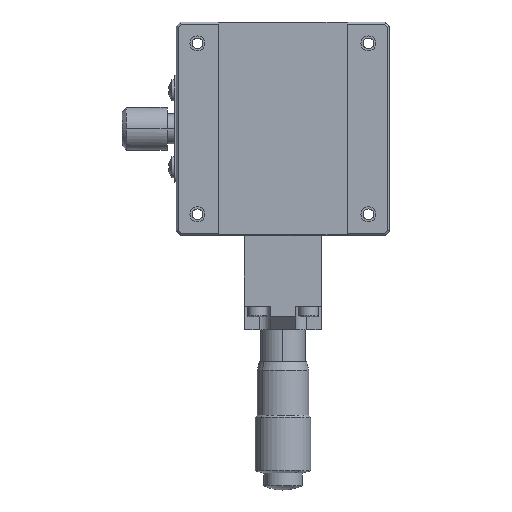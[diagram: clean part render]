
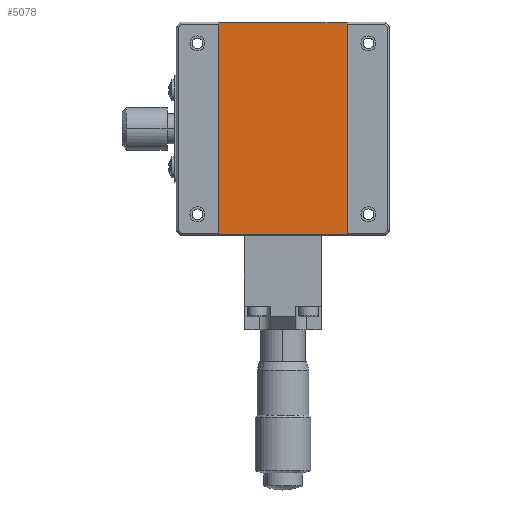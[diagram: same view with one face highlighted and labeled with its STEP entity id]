
A CAD part, front view. The second image highlights one B-rep face of the part: STEP entity #5078.
In plain terms, the highlighted planar face has unit normal (0, -1, 0).
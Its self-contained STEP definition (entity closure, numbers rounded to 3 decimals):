
#499 = LINE ( 'NONE', #507, #6881 ) ;
#500 = LINE ( 'NONE', #510, #6855 ) ;
#505 = LINE ( 'NONE', #513, #6861 ) ;
#507 = CARTESIAN_POINT ( 'NONE',  ( -60.296, -23.128, 31. ) ) ;
#508 = LINE ( 'NONE', #516, #6815 ) ;
#509 = DIRECTION ( 'NONE',  ( 0., 0., 1. ) ) ;
#510 = CARTESIAN_POINT ( 'NONE',  ( -30.296, -23.128, -24.8 ) ) ;
#512 = DIRECTION ( 'NONE',  ( -1., 0., 0. ) ) ;
#513 = CARTESIAN_POINT ( 'NONE',  ( -30.296, -23.128, 31. ) ) ;
#515 = DIRECTION ( 'NONE',  ( 0., 0., -1. ) ) ;
#516 = CARTESIAN_POINT ( 'NONE',  ( -30.296, -23.128, 24.8 ) ) ;
#518 = DIRECTION ( 'NONE',  ( 1., 0., 0. ) ) ;
#2508 = CARTESIAN_POINT ( 'NONE',  ( -30.296, -23.128, 31. ) ) ;
#2511 = FACE_OUTER_BOUND ( 'NONE', #6497, .T. ) ;
#2512 = PLANE ( 'NONE',  #14005 ) ;
#2515 = DIRECTION ( 'NONE',  ( 0., 1., 0. ) ) ;
#2516 = DIRECTION ( 'NONE',  ( 0., 0., 1. ) ) ;
#5078 = ADVANCED_FACE ( 'NONE', ( #2511 ), #2512, .F. ) ;
#6497 = EDGE_LOOP ( 'NONE', ( #11290, #11274, #11308, #11288 ) ) ;
#6815 = VECTOR ( 'NONE', #518, 1000. ) ;
#6855 = VECTOR ( 'NONE', #512, 1000. ) ;
#6861 = VECTOR ( 'NONE', #515, 1000. ) ;
#6881 = VECTOR ( 'NONE', #509, 1000. ) ;
#7237 = EDGE_CURVE ( 'NONE', #12471, #12470, #499, .T. ) ;
#7238 = EDGE_CURVE ( 'NONE', #12428, #12471, #500, .T. ) ;
#7239 = EDGE_CURVE ( 'NONE', #12475, #12428, #505, .T. ) ;
#7240 = EDGE_CURVE ( 'NONE', #12470, #12475, #508, .T. ) ;
#11274 = ORIENTED_EDGE ( 'NONE', *, *, #7238, .F. ) ;
#11288 = ORIENTED_EDGE ( 'NONE', *, *, #7240, .F. ) ;
#11290 = ORIENTED_EDGE ( 'NONE', *, *, #7237, .F. ) ;
#11308 = ORIENTED_EDGE ( 'NONE', *, *, #7239, .F. ) ;
#12428 = VERTEX_POINT ( 'NONE', #16883 ) ;
#12470 = VERTEX_POINT ( 'NONE', #16923 ) ;
#12471 = VERTEX_POINT ( 'NONE', #16924 ) ;
#12475 = VERTEX_POINT ( 'NONE', #16928 ) ;
#14005 = AXIS2_PLACEMENT_3D ( 'NONE', #2508, #2515, #2516 ) ;
#16883 = CARTESIAN_POINT ( 'NONE',  ( -30.296, -23.128, -24.8 ) ) ;
#16923 = CARTESIAN_POINT ( 'NONE',  ( -60.296, -23.128, 24.8 ) ) ;
#16924 = CARTESIAN_POINT ( 'NONE',  ( -60.296, -23.128, -24.8 ) ) ;
#16928 = CARTESIAN_POINT ( 'NONE',  ( -30.296, -23.128, 24.8 ) ) ;
